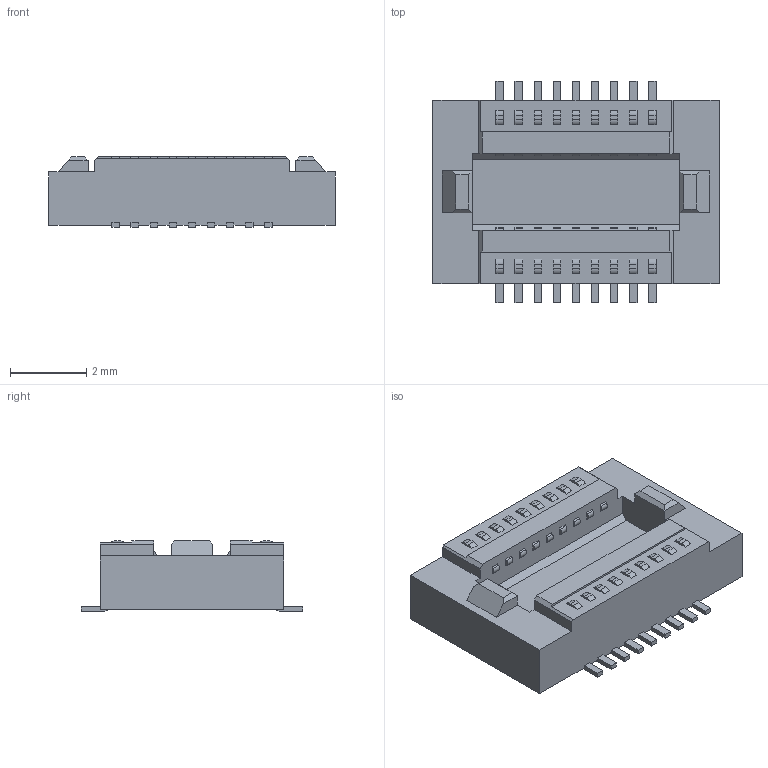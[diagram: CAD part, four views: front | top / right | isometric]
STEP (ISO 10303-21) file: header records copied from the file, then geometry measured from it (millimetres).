
FILE_DESCRIPTION((''),'2;1');
FILE_NAME('BTB-AXK5F18545_PRT','2008-06-30T',('GRA'),(''),'PRO/ENGINEER BY PARAMETRIC TECHNOLOGY CORPORATION, 2006170','PRO/ENGINEER BY PARAMETRIC TECHNOLOGY CORPORATION, 2006170','');
FILE_SCHEMA(('CONFIG_CONTROL_DESIGN'));
Length unit declared in the file: millimetre
Products named in the file (1): BTB-AXK5F18545_PRT
Bounding box: 7.5 x 5.8 x 1.85 mm (x, y, z)
Volume: 49 mm3; surface area: 135.2 mm2
Topology: 1 solids, 1 shells, 330 faces, 872 edges, 580 vertices
Faces by surface type: plane 240, cylinder 90
Entity records: 10454 total; most frequent: CARTESIAN_POINT 2250, ORIENTED_EDGE 1744, DIRECTION 1568, EDGE_CURVE 872, VECTOR 692, LINE 692, VERTEX_POINT 580, AXIS2_PLACEMENT_3D 438
